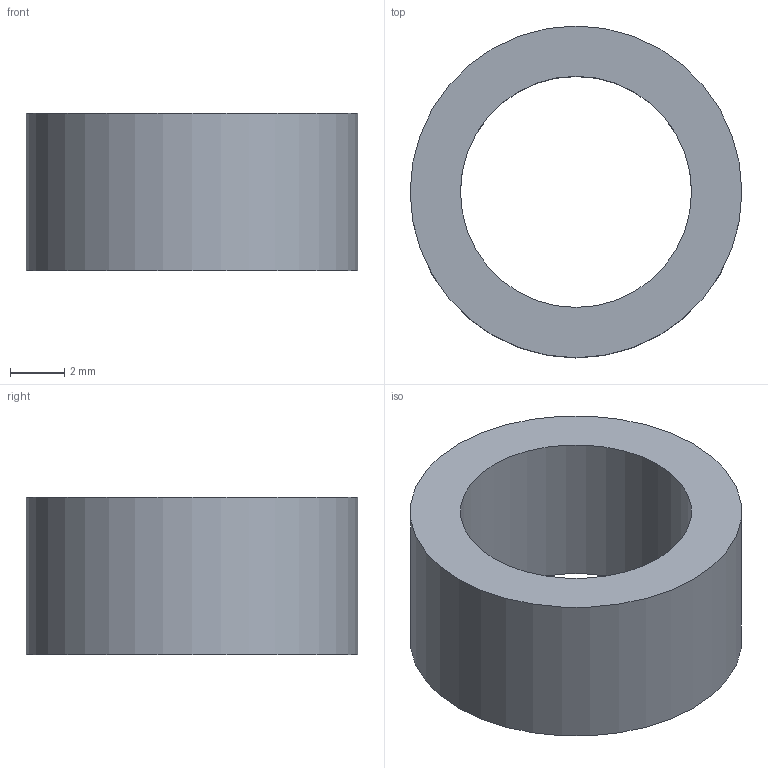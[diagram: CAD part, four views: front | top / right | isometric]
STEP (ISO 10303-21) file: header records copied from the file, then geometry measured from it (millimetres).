
FILE_DESCRIPTION(('Open CASCADE Model'),'2;1');
FILE_NAME('CM_bushing','2026-11-05T16:12:25',('Author'),('Open CASCADE') ,'Open CASCADE STEP processor 7.9','build123d','Unknown');
FILE_SCHEMA(('AUTOMOTIVE_DESIGN { 1 0 10303 214 1 1 1 1 }'));
Length unit declared in the file: millimetre
Products named in the file (2): CM_bushing
Assembly tree (1 placements, depth 2):
  CM_bushing
    CM_bushing
Bounding box: 12.2 x 12.2 x 5.8 mm (x, y, z)
Volume: 348.9 mm3; surface area: 497.5 mm2
Topology: 1 solids, 1 shells, 4 faces, 6 edges, 4 vertices
Faces by surface type: cylinder 2, plane 2
Full cylindrical faces by diameter (mm): 8.5 x1, 12.2 x1
Entity records: 228 total; most frequent: DIRECTION 34, CARTESIAN_POINT 28, ORIENTED_EDGE 12, PCURVE 12, DEFINITIONAL_REPRESENTATION 12, AXIS2_PLACEMENT_3D 10, LINE 10, VECTOR 10
